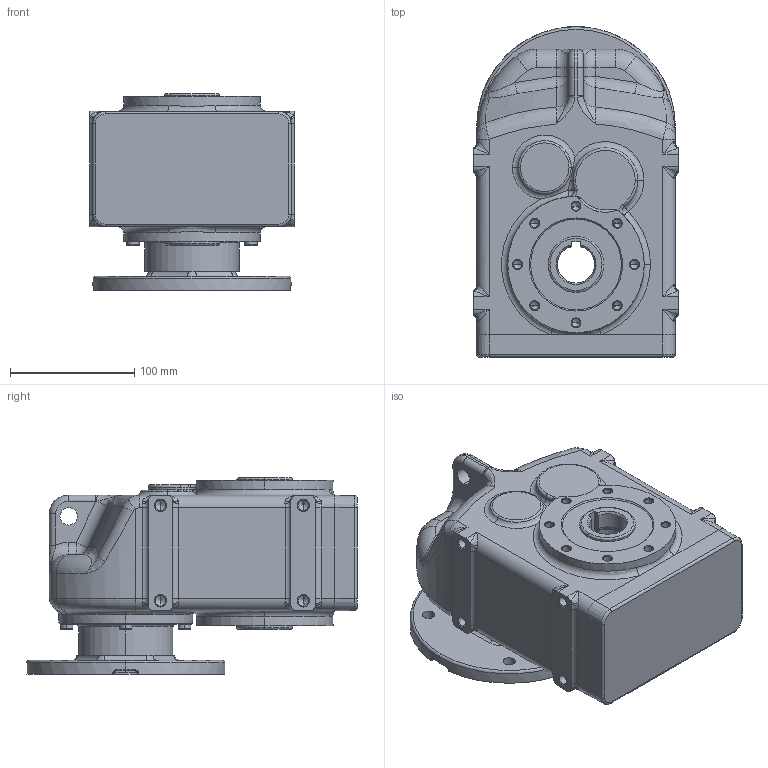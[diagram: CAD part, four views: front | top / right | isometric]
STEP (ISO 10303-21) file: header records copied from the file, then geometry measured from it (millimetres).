
FILE_DESCRIPTION (( 'STEP AP214' ), '1' );
FILE_NAME ('tnc13-f130-ap71.STEP', '2009-09-25T08:14:34', ( '' ), ( '' ), 'SwSTEP 2.0', 'SolidWorks 2003240', '' );
FILE_SCHEMA (( 'AUTOMOTIVE_DESIGN' ));
Length unit declared in the file: millimetre
Products named in the file (4): Skøíò TNC1_Skøíò TNC13 AP71; D6912_Šroub DIN 6912 - M6x20; pøíruba d55 MRT60a_pøíruba 110-130-160; tnc13-f130-ap71
Assembly tree (8 placements, depth 2):
  tnc13-f130-ap71
    D6912_Šroub DIN 6912 - M6x20  x6
    pøíruba d55 MRT60a_pøíruba 110-130-160
    Skøíò TNC1_Skøíò TNC13 AP71
Bounding box: 165 x 266.21 x 158 mm (x, y, z)
Volume: 3780441.7 mm3; surface area: 240975 mm2
Topology: 8 solids, 8 shells, 1151 faces, 2650 edges, 1482 vertices
Faces by surface type: cylinder 276, torus 270, cone 253, plane 183, bspline 164, sphere 5
Entity records: 148229 total; most frequent: CARTESIAN_POINT 125716, DIRECTION 4763, ORIENTED_EDGE 4472, EDGE_CURVE 2236, AXIS2_PLACEMENT_3D 2089, VERTEX_POINT 1327, CIRCLE 1276, EDGE_LOOP 1043
